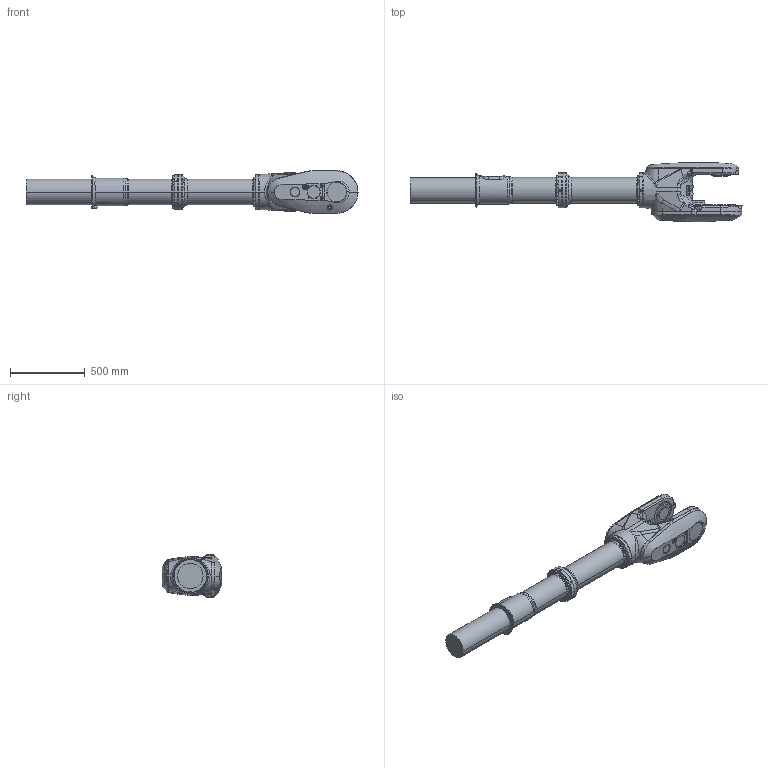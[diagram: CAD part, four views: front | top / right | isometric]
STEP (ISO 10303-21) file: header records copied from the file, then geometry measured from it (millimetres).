
FILE_DESCRIPTION (( 'STEP AP214' ), '1' );
FILE_NAME ('IRB6760_All-350_OC_00_LINK04_CAD.step', '2025-09-30T13:06:31', ( '' ), ( '' ), 'SwSTEP 2.0', 'SolidWorks 2024', '' );
FILE_SCHEMA (( 'AUTOMOTIVE_DESIGN' ));
Length unit declared in the file: millimetre
Products named in the file (1): IRB6760_All-350_OC_00_LINK04_CAD
Bounding box: 2217.5 x 395.55 x 284 mm (x, y, z)
Volume: 75568652.5 mm3; surface area: 1832495.1 mm2
Topology: 1 solids, 1 shells, 816 faces, 1991 edges, 1236 vertices
Faces by surface type: plane 312, cylinder 217, cone 144, bspline 96, torus 47
Entity records: 45719 total; most frequent: CARTESIAN_POINT 18760, ORIENTED_EDGE 3926, DIRECTION 3466, EDGE_CURVE 1963, AXIS2_PLACEMENT_3D 1323, VERTEX_POINT 1236, EDGE_LOOP 907, VECTOR 820
